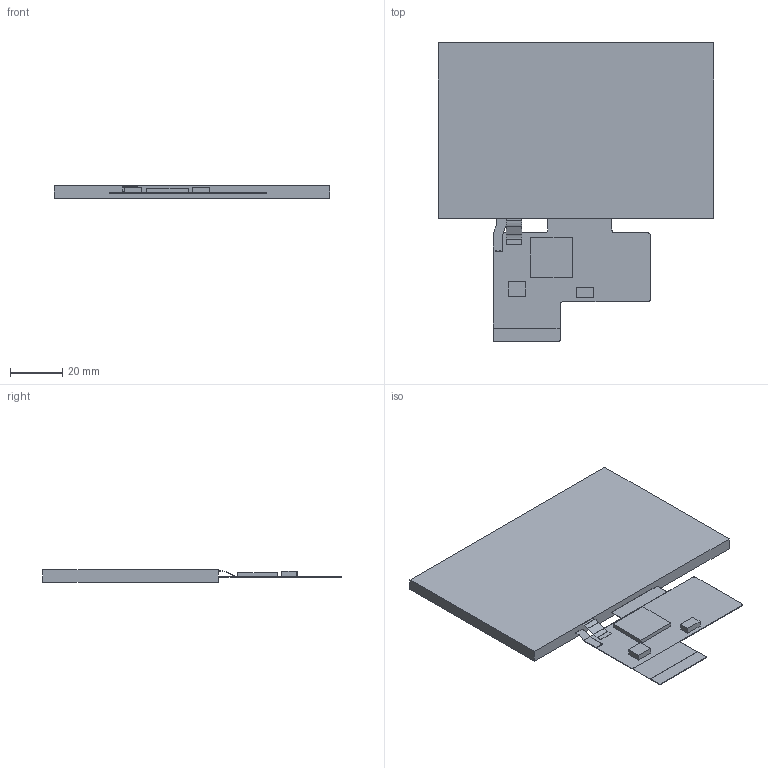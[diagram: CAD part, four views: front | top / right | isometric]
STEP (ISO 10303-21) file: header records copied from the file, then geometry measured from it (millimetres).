
FILE_DESCRIPTION((''),'2;1');
FILE_NAME('DMG48270F043-02WTR','2024-09-18T',('Administrator'),(''),'PRO/ENGINEER BY PARAMETRIC TECHNOLOGY CORPORATION, 2008380','PRO/ENGINEER BY PARAMETRIC TECHNOLOGY CORPORATION, 2008380','');
FILE_SCHEMA(('CONFIG_CONTROL_DESIGN'));
Length unit declared in the file: millimetre
Products named in the file (1): DMG48270F043-02WTR
Bounding box: 105.52 x 114.12 x 4.6 mm (x, y, z)
Volume: 33693.8 mm3; surface area: 20381 mm2
Topology: 1 solids, 1 shells, 68 faces, 787 edges, 749 vertices
Faces by surface type: plane 53, cylinder 15
Entity records: 5963 total; most frequent: DIRECTION 983, CARTESIAN_POINT 983, VECTOR 733, LINE 733, TRIMMED_CURVE 599, COMPOSITE_CURVE_SEGMENT 583, ORIENTED_EDGE 376, EDGE_CURVE 188
